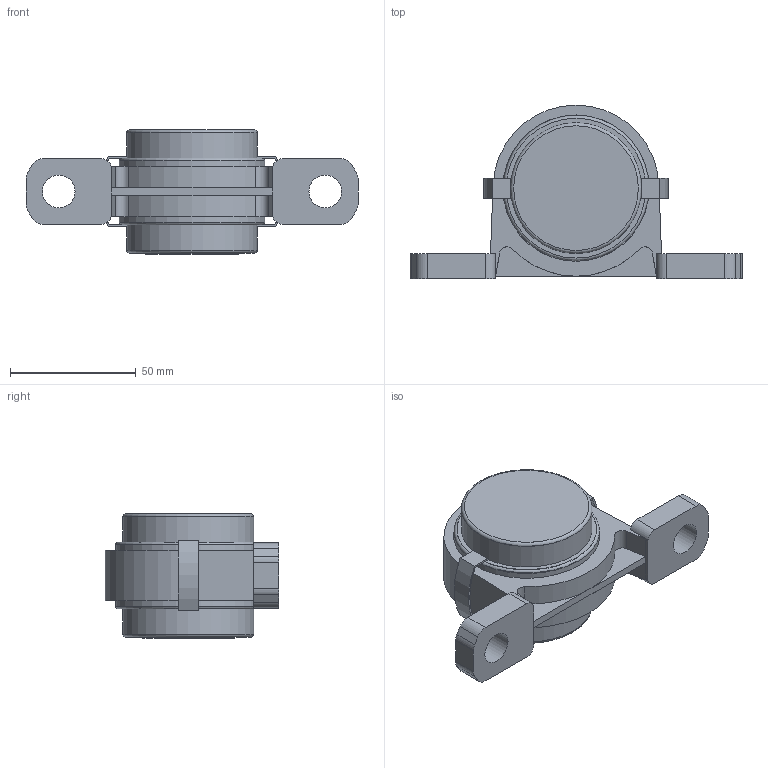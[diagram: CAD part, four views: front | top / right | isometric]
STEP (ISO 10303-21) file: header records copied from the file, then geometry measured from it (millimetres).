
FILE_DESCRIPTION((''),'2;1');
FILE_NAME('\\Ts-tgl068\J-Cad-D-BASE\00.3DCADデータ作成フォルダ\11.エコシリーズ\MUSP000\MUSP006E.stp','2014-11-12T09:34:36',('btec_1106_2'),(''),'Autodesk Inventor 2012','Autodesk Inventor 2012','');
FILE_SCHEMA(('AUTOMOTIVE_DESIGN { 1 0 10303 214 1 1 1 1 }'));
Length unit declared in the file: millimetre
Products named in the file (6): MUSP006C(E); SP006; U006; 06-7CPE; 6CLP; 06-7CP30
Assembly tree (6 placements, depth 2):
  MUSP006C(E)
    SP006
    U006
    06-7CPE
    6CLP  x2
    06-7CP30
Bounding box: 132 x 69 x 49.4 mm (x, y, z)
Volume: 74758.5 mm3; surface area: 49833.7 mm2
Topology: 6 solids, 6 shells, 132 faces, 306 edges, 199 vertices
Faces by surface type: plane 72, cylinder 45, torus 8, cone 5, sphere 2
Full cylindrical faces by diameter (mm): 3.5 x1, 4.134 x1, 13 x2, 30 x2, 36.6 x2, 38 x1, 42 x1, 51.4 x2, 52 x2, 57.2 x2, 57.8 x2, 58.2 x2
Entity records: 3530 total; most frequent: CARTESIAN_POINT 678, DIRECTION 602, ORIENTED_EDGE 472, AXIS2_PLACEMENT_3D 238, EDGE_CURVE 236, EDGE_LOOP 184, VERTEX_POINT 174, VECTOR 126
